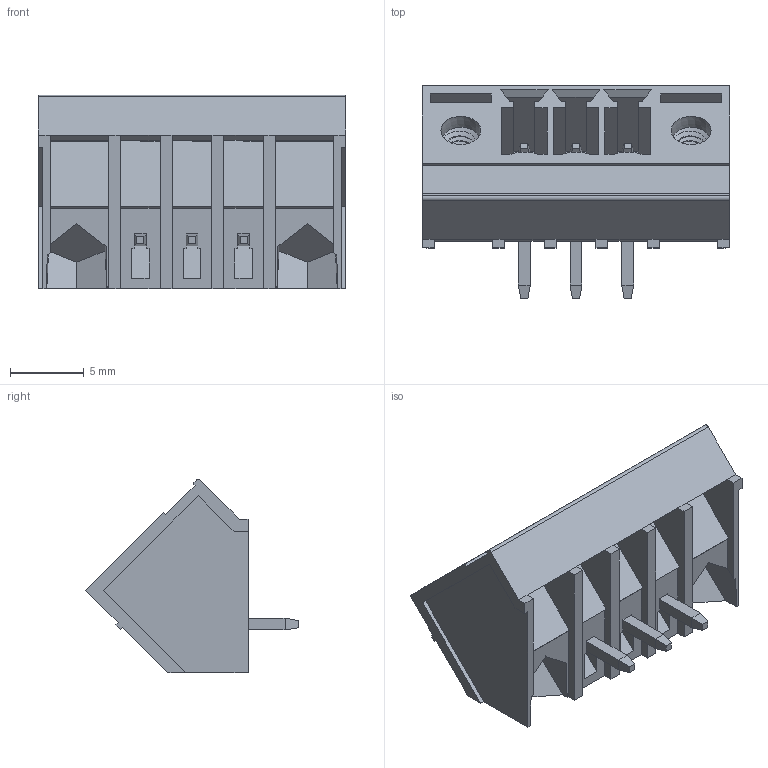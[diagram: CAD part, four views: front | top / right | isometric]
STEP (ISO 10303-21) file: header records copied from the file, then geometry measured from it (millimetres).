
FILE_DESCRIPTION((''),'2;1');
FILE_NAME('3PIN_SW0001','2019-05-10T',('zhenbing.lai'),(''),'CREO PARAMETRIC BY PTC INC, 2016260','CREO PARAMETRIC BY PTC INC, 2016260','');
FILE_SCHEMA(('CONFIG_CONTROL_DESIGN'));
Length unit declared in the file: millimetre
Products named in the file (1): 3PIN_SW0001
Bounding box: 20.8 x 14.4 x 13.1 mm (x, y, z)
Volume: 1140.2 mm3; surface area: 2255.5 mm2
Topology: 1 solids, 18 shells, 437 faces, 1107 edges, 712 vertices
Faces by surface type: plane 362, cylinder 52, bspline 12, cone 11
Entity records: 20496 total; most frequent: CARTESIAN_POINT 10148, ORIENTED_EDGE 2214, DIRECTION 1912, EDGE_CURVE 1107, VECTOR 952, LINE 952, VERTEX_POINT 712, AXIS2_PLACEMENT_3D 480
